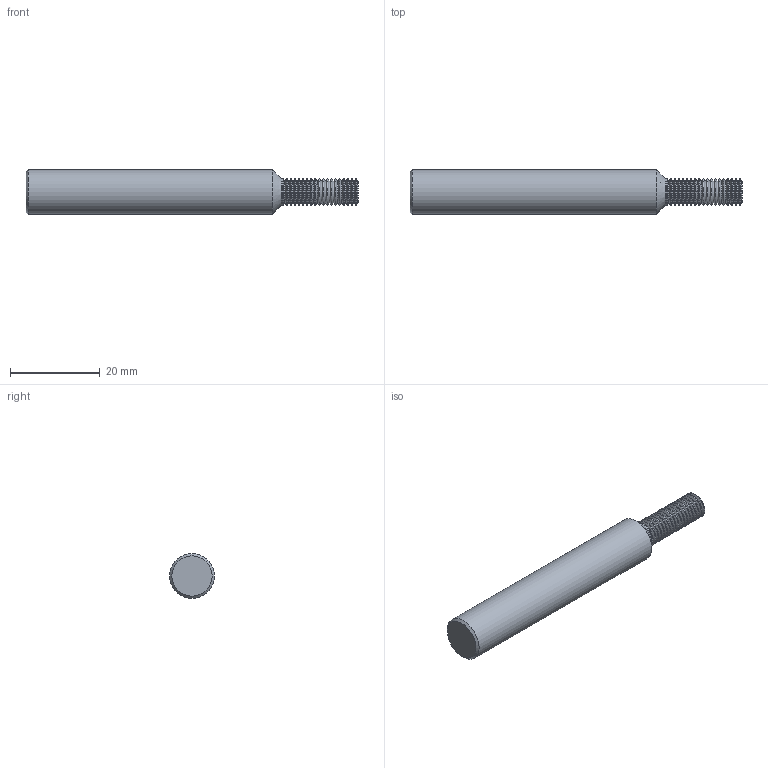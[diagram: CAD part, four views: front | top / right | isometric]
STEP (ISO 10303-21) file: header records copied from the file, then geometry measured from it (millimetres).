
FILE_DESCRIPTION(/* description */ (''),/* implementation_level */ '2;1');
FILE_NAME(/* name */ '00036402-TDM',/* time_stamp */ '2024-02-20T07:33:57+01:00',/* author */ (''),/* organization */ (''),/* preprocessor_version */ 'ST-DEVELOPER v16.5',/* originating_system */ 'HiCAD 2017 2201.0 Build 268',/* authorisation */ '');
FILE_SCHEMA (('AUTOMOTIVE_DESIGN { 1 0 10303 214 1 1 1 1 }'));
Length unit declared in the file: millimetre
Products named in the file (3): Root; ROTATIONSTEIL_0
Assembly tree (2 placements, depth 3):
  Root
    ROTATIONSTEIL_0
      ROTATIONSTEIL_0
Bounding box: 74 x 10 x 10 mm (x, y, z)
Volume: 4798.8 mm3; surface area: 2480.9 mm2
Topology: 2 solids, 2 shells, 84 faces, 164 edges, 84 vertices
Faces by surface type: cone 40, torus 38, plane 4, cylinder 2
Full cylindrical faces by diameter (mm): 6 x1, 10 x1
Entity records: 2544 total; most frequent: DIRECTION 340, CARTESIAN_POINT 252, AXIS2_PLACEMENT_3D 170, PRESENTATION_STYLE_ASSIGNMENT 166, COLOUR_RGB 166, DRAUGHTING_PRE_DEFINED_CURVE_FONT 164, CURVE_STYLE 164, OVER_RIDING_STYLED_ITEM 164
